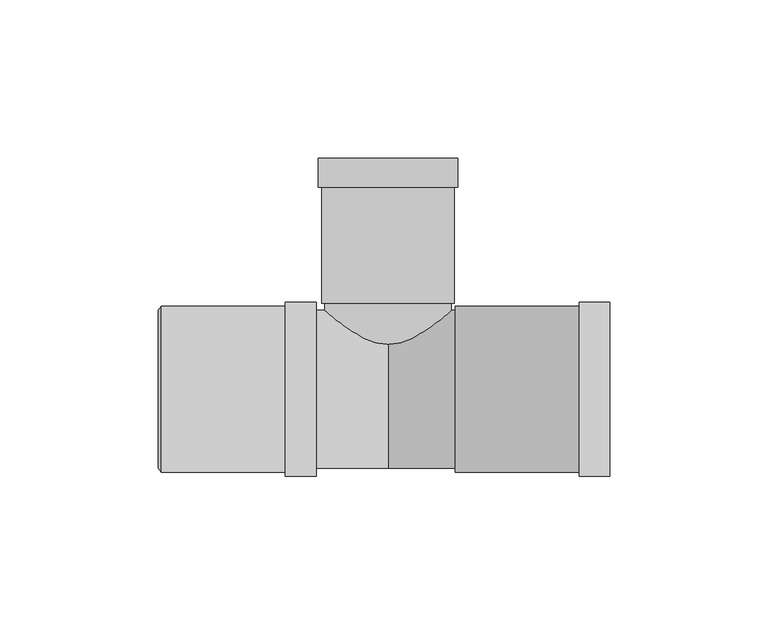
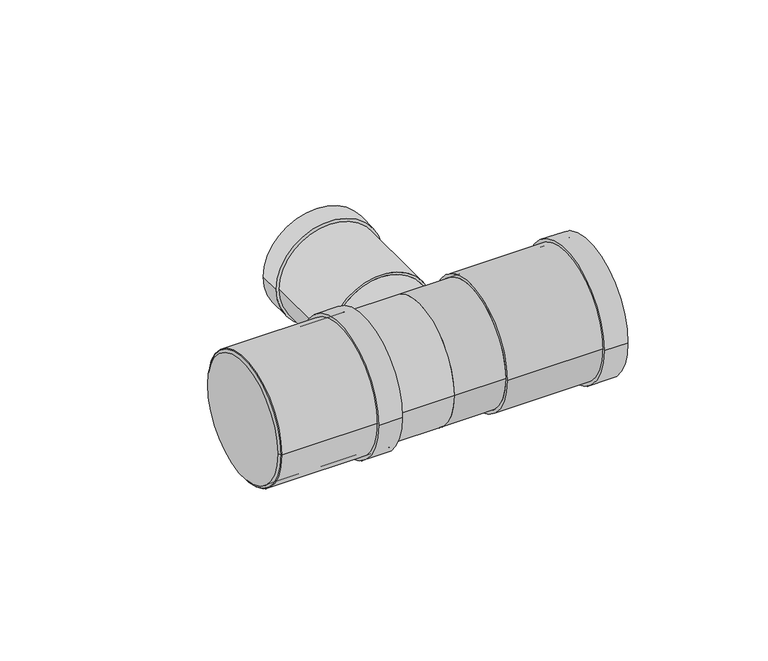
"""IFC4 building model written with IfcOpenShell, lengths in millimetres: pipe fitting geometry, Superdrain HTEA Branch : Superdrain HTEA Branch."""

from ifc_helpers import new_model, si_unit, point, frame, origin, origin_2d, place, context, project, spatial, polyline, circle_curve, trimmed, segment, composite_curve, outline, extrude, source, transform, mapped, element, save
from ifc_brep_helpers import plane_surface, revolved_surface, advanced_brep


def pipe_fitting_07800d98(model_context):
    return source(origin(), model_context, "Body", "SolidModel", [
        extrude(outline(composite_curve([segment(trimmed(circle_curve(origin_2d(), 26.25), [point((26.25, 0.0))], [point((-26.25, 0.0))], False, "CARTESIAN"), True, "CONTINUOUS"), segment(trimmed(circle_curve(origin_2d(), 26.25), [point((-26.25, 0.0))], [point((26.25, 0.0))], False, "CARTESIAN"), True, "CONTINUOUS")], self_intersect=False), holes=[composite_curve([segment(trimmed(circle_curve(origin_2d(), 25.0), [point((25.0, 0.0))], [point((-25.0, 0.0))], True, "CARTESIAN"), True, "CONTINUOUS"), segment(trimmed(circle_curve(origin_2d(), 25.0), [point((-25.0, 0.0))], [point((25.0, 0.0))], True, "CARTESIAN"), True, "CONTINUOUS")], self_intersect=False)]), frame((-71.8, 0.0, 0.0), z_axis=(1.0, 0.0, 0.0), x_axis=(0.0, 1.0, 0.0)), (0.0, 0.0, 1.0), 49.0),
        extrude(outline(composite_curve([segment(trimmed(circle_curve(origin_2d(), 27.5625), [point((27.5625, 0.0))], [point((-27.5625, 0.0))], False, "CARTESIAN"), True, "CONTINUOUS"), segment(trimmed(circle_curve(origin_2d(), 27.5625), [point((-27.5625, 0.0))], [point((27.5625, 0.0))], False, "CARTESIAN"), True, "CONTINUOUS")], self_intersect=False), holes=[composite_curve([segment(trimmed(circle_curve(origin_2d(), 25.0), [point((25.0, 0.0))], [point((-25.0, 0.0))], True, "CARTESIAN"), True, "CONTINUOUS"), segment(trimmed(circle_curve(origin_2d(), 25.0), [point((-25.0, 0.0))], [point((25.0, 0.0))], True, "CARTESIAN"), True, "CONTINUOUS")], self_intersect=False)]), frame((-32.6, 0.0, 0.0), z_axis=(1.0, 0.0, 0.0), x_axis=(0.0, 1.0, 0.0)), (0.0, 0.0, 1.0), 9.8),
        advanced_brep(
        [(-72.8, 25.0, 0.0), (-72.8, -25.0, 0.0), (-71.8, 26.25, 0.0), (-71.8, -26.25, 0.0)],
        [
            (0, 1, circle_curve(frame((-72.8, 0.0, 0.0), z_axis=(-1.0, 0.0, 0.0), x_axis=(0.0, 1.0, 0.0)), 25.0)),
            (1, 0, circle_curve(frame((-72.8, 0.0, 0.0), z_axis=(-1.0, 0.0, 0.0), x_axis=(0.0, -1.0, 0.0)), 25.0)),
            (2, 3, circle_curve(frame((-71.8, 0.0, 0.0), z_axis=(1.0, 0.0, 0.0), x_axis=(0.0, -1.0, 0.0)), 26.25)),
            (3, 2, circle_curve(frame((-71.8, 0.0, 0.0), z_axis=(1.0, 0.0, 0.0), x_axis=(0.0, 1.0, 0.0)), 26.25)),
            (3, 1),
            (0, 2),
        ],
        [
            plane_surface(frame((-72.8, 0.0, 0.0), z_axis=(-1.0, 0.0, 0.0), x_axis=(0.0, 0.0, -1.0))),
            plane_surface(frame((-71.8, 0.0, 0.0), z_axis=(1.0, 0.0, 0.0), x_axis=(0.0, 0.0, -1.0))),
            revolved_surface(polyline([(-72.8, 25.0, 0.0), (-71.8, 26.25, 0.0)]), (-92.8, 0.0, 0.0), (1.0, 0.0, 0.0)),
            revolved_surface(polyline([(-72.8, -25.0, 0.0), (-71.8, -26.25, 0.0)]), (-92.8, 0.0, 0.0), (1.0, 0.0, 0.0)),
        ],
        [
            (0, [[1, 2]]),
            (1, [[3, 4]]),
            (2, [[-4, 5, -1, 6]]),
            (3, [[-3, -6, -2, -5]]),
        ],
    ),
        extrude(outline(composite_curve([segment(trimmed(circle_curve(origin_2d(), 26.25), [point((-26.25, 0.0))], [point((26.25, 0.0))], False, "CARTESIAN"), True, "CONTINUOUS"), segment(trimmed(circle_curve(origin_2d(), 26.25), [point((26.25, 0.0))], [point((-26.25, 0.0))], False, "CARTESIAN"), True, "CONTINUOUS")], self_intersect=False), holes=[composite_curve([segment(trimmed(circle_curve(origin_2d(), 25.0), [point((25.0, 0.0))], [point((-25.0, 0.0))], True, "CARTESIAN"), True, "CONTINUOUS"), segment(trimmed(circle_curve(origin_2d(), 25.0), [point((-25.0, 0.0))], [point((25.0, 0.0))], True, "CARTESIAN"), True, "CONTINUOUS")], self_intersect=False)]), frame((21.2, 0.0, 0.0), z_axis=(1.0, 0.0, 0.0), x_axis=(0.0, 1.0, 0.0)), (0.0, 0.0, 1.0), 49.0),
        extrude(outline(composite_curve([segment(trimmed(circle_curve(origin_2d(), 27.5625), [point((27.5625, 0.0))], [point((-27.5625, 0.0))], False, "CARTESIAN"), True, "CONTINUOUS"), segment(trimmed(circle_curve(origin_2d(), 27.5625), [point((-27.5625, 0.0))], [point((27.5625, 0.0))], False, "CARTESIAN"), True, "CONTINUOUS")], self_intersect=False), holes=[composite_curve([segment(trimmed(circle_curve(origin_2d(), 25.0), [point((25.0, 0.0))], [point((-25.0, 0.0))], True, "CARTESIAN"), True, "CONTINUOUS"), segment(trimmed(circle_curve(origin_2d(), 25.0), [point((-25.0, 0.0))], [point((25.0, 0.0))], True, "CARTESIAN"), True, "CONTINUOUS")], self_intersect=False)]), frame((60.4, 0.0, 0.0), z_axis=(1.0, 0.0, 0.0), x_axis=(0.0, 1.0, 0.0)), (0.0, 0.0, 1.0), 9.8),
        extrude(outline(composite_curve([segment(trimmed(circle_curve(origin_2d(), 20.0), [point((0.0, 20.0))], [point((0.0, -20.0))], False, "CARTESIAN"), True, "CONTINUOUS"), segment(trimmed(circle_curve(origin_2d(), 20.0), [point((0.0, -20.0))], [point((0.0, 20.0))], False, "CARTESIAN"), True, "CONTINUOUS")], self_intersect=False)), frame((0.0, 0.0, 0.0), z_axis=(0.0, 1.0, 0.0), x_axis=(0.0, 0.0, 1.0)), (0.0, 0.0, 1.0), 27.2),
        extrude(outline(composite_curve([segment(trimmed(circle_curve(origin_2d(), 25.0), [point((25.0, 0.0))], [point((-25.0, 0.0))], False, "CARTESIAN"), True, "CONTINUOUS"), segment(trimmed(circle_curve(origin_2d(), 25.0), [point((-25.0, 0.0))], [point((25.0, 0.0))], False, "CARTESIAN"), True, "CONTINUOUS")], self_intersect=False)), frame((-71.8, 0.0, 0.0), z_axis=(1.0, 0.0, 0.0), x_axis=(0.0, 1.0, 0.0)), (0.0, 0.0, 1.0), 71.8),
        extrude(outline(composite_curve([segment(trimmed(circle_curve(origin_2d(), 25.0), [point((-25.0, 0.0))], [point((25.0, 0.0))], False, "CARTESIAN"), True, "CONTINUOUS"), segment(trimmed(circle_curve(origin_2d(), 25.0), [point((25.0, 0.0))], [point((-25.0, 0.0))], False, "CARTESIAN"), True, "CONTINUOUS")], self_intersect=False)), frame((0.0, 0.0, 0.0), z_axis=(1.0, 0.0, 0.0), x_axis=(0.0, 1.0, 0.0)), (0.0, 0.0, 1.0), 21.2),
        extrude(outline(composite_curve([segment(trimmed(circle_curve(origin_2d(), 22.05), [point((0.0, 22.05))], [point((0.0, -22.05))], False, "CARTESIAN"), True, "CONTINUOUS"), segment(trimmed(circle_curve(origin_2d(), 22.05), [point((0.0, -22.05))], [point((0.0, 22.05))], False, "CARTESIAN"), True, "CONTINUOUS")], self_intersect=False), holes=[composite_curve([segment(trimmed(circle_curve(origin_2d(), 20.0), [point((0.0, 20.0))], [point((0.0, -20.0))], True, "CARTESIAN"), True, "CONTINUOUS"), segment(trimmed(circle_curve(origin_2d(), 20.0), [point((0.0, -20.0))], [point((0.0, 20.0))], True, "CARTESIAN"), True, "CONTINUOUS")], self_intersect=False)]), frame((0.0, 64.0, 0.0), z_axis=(0.0, 1.0, 0.0), x_axis=(0.0, 0.0, 1.0)), (0.0, 0.0, 1.0), 9.2),
        extrude(outline(composite_curve([segment(trimmed(circle_curve(origin_2d(), 21.0), [point((0.0, 21.0))], [point((0.0, -21.0))], False, "CARTESIAN"), True, "CONTINUOUS"), segment(trimmed(circle_curve(origin_2d(), 21.0), [point((0.0, -21.0))], [point((0.0, 21.0))], False, "CARTESIAN"), True, "CONTINUOUS")], self_intersect=False), holes=[composite_curve([segment(trimmed(circle_curve(origin_2d(), 20.0), [point((0.0, 20.0))], [point((0.0, -20.0))], True, "CARTESIAN"), True, "CONTINUOUS"), segment(trimmed(circle_curve(origin_2d(), 20.0), [point((0.0, -20.0))], [point((0.0, 20.0))], True, "CARTESIAN"), True, "CONTINUOUS")], self_intersect=False)]), frame((0.0, 27.2, 0.0), z_axis=(0.0, 1.0, 0.0), x_axis=(0.0, 0.0, 1.0)), (0.0, 0.0, 1.0), 46.0),
    ])


if __name__ == "__main__":
    model = new_model("IFC4")
    model_context = context("Model", 3, world=origin())
    ifc_project = project(units=[si_unit("LENGTHUNIT", "METRE", prefix="MILLI")], contexts=[model_context])
    site = spatial("IfcSite", under=ifc_project)
    building = spatial("IfcBuilding", under=site)
    placement = place(None, origin())
    pipe_fitting_shape = pipe_fitting_07800d98(model_context)
    element("IfcPipeFitting", 1, ObjectType="Superdrain HTEA Branch : Superdrain HTEA Branch", at=placement, inside=building, context=model_context, shape_type="MappedRepresentation", body=[
        mapped(pipe_fitting_shape, transform((0.0, 0.0, 0.0), x_axis=(1.0, 0.0, 0.0), y_axis=(0.0, 1.0, 0.0), z_axis=(0.0, 0.0, 1.0))),
    ])
    save(model, "model.ifc")
